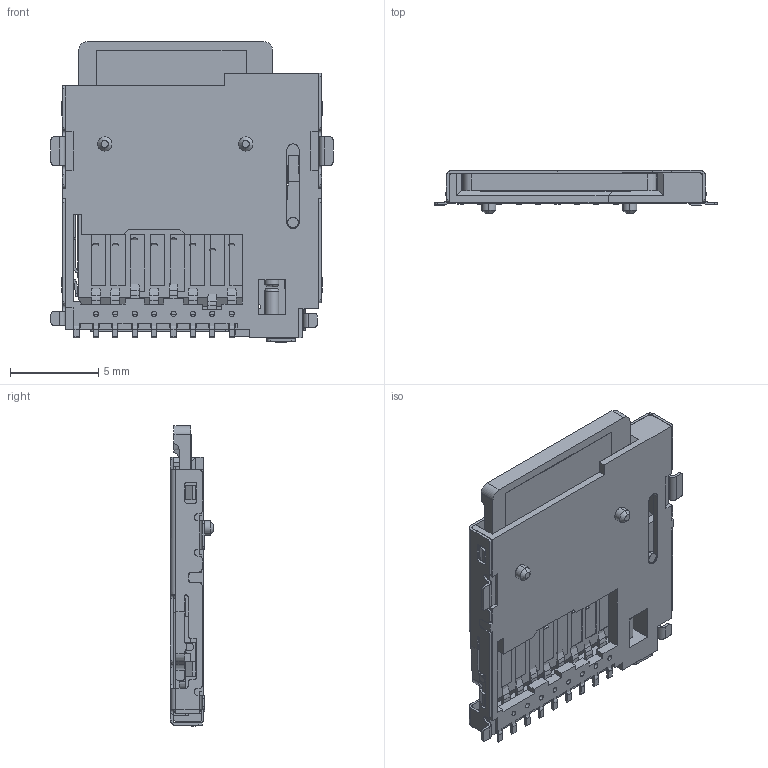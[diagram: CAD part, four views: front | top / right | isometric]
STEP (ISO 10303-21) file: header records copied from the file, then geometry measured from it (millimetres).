
FILE_DESCRIPTION (( 'STEP AP214' ), '1' );
FILE_NAME ('User Library-Socket-MicroSD.STEP', '2020-03-10T20:19:24', ( '' ), ( '' ), 'SwSTEP 2.0', 'SolidWorks 2019', '' );
FILE_SCHEMA (( 'AUTOMOTIVE_DESIGN' ));
Length unit declared in the file: millimetre
Products named in the file (1): User Library-Socket-MicroSD
Bounding box: 16 x 2.45 x 17.05 mm (x, y, z)
Surface area: 1371.4 mm2 (no closed solid volume)
Topology: 0 solids, 732 shells, 788 faces, 4697 edges, 4638 vertices
Faces by surface type: plane 505, cylinder 236, bspline 41, cone 5, torus 1
Entity records: 61578 total; most frequent: CARTESIAN_POINT 19480, DIRECTION 6002, ORIENTED_EDGE 4814, EDGE_CURVE 4697, VERTEX_POINT 4638, LINE 3388, VECTOR 3388, AXIS2_PLACEMENT_3D 1307
